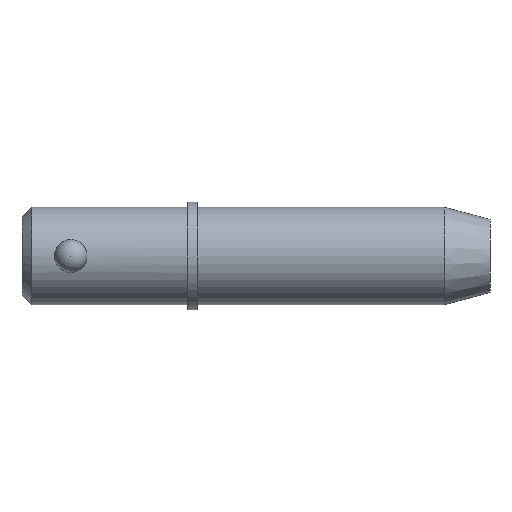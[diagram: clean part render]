
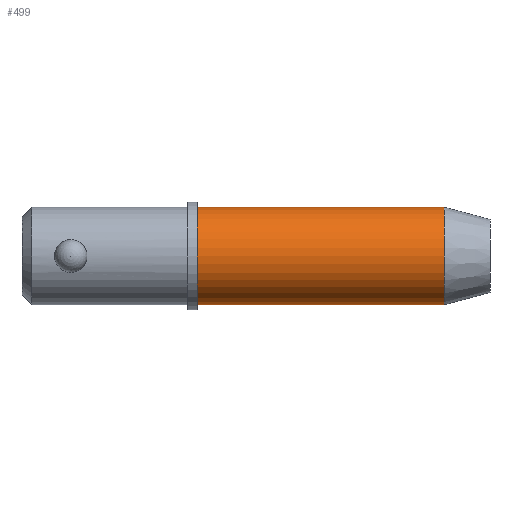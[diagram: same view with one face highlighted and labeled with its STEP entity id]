
A CAD part, front view. The second image highlights one B-rep face of the part: STEP entity #499.
In plain terms, the highlighted cylindrical face has radius 7.145 mm (diameter 14.29 mm), a partial arc.
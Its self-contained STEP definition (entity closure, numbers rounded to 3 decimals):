
#22 = CARTESIAN_POINT ( 'NONE',  ( 61.884, 0., 7.145 ) ) ;
#90 = DIRECTION ( 'NONE',  ( 0., 0., -1. ) ) ;
#112 = DIRECTION ( 'NONE',  ( 1., 0., 0. ) ) ;
#122 = CARTESIAN_POINT ( 'NONE',  ( 61.884, 0., -7.145 ) ) ;
#171 = DIRECTION ( 'NONE',  ( 0., 0., -1. ) ) ;
#221 = VECTOR ( 'NONE', #339, 1000. ) ;
#238 = AXIS2_PLACEMENT_3D ( 'NONE', #425, #254, #171 ) ;
#240 = AXIS2_PLACEMENT_3D ( 'NONE', #420, #112, #356 ) ;
#254 = DIRECTION ( 'NONE',  ( 1., 0., 0. ) ) ;
#277 = AXIS2_PLACEMENT_3D ( 'NONE', #787, #386, #90 ) ;
#305 = EDGE_CURVE ( 'NONE', #630, #833, #478, .T. ) ;
#322 = ORIENTED_EDGE ( 'NONE', *, *, #421, .T. ) ;
#339 = DIRECTION ( 'NONE',  ( 1., 0., 0. ) ) ;
#356 = DIRECTION ( 'NONE',  ( 0., 0., -1. ) ) ;
#386 = DIRECTION ( 'NONE',  ( 1., 0., 0. ) ) ;
#402 = ORIENTED_EDGE ( 'NONE', *, *, #988, .T. ) ;
#409 = CARTESIAN_POINT ( 'NONE',  ( 25.7, 0., -7.145 ) ) ;
#420 = CARTESIAN_POINT ( 'NONE',  ( 0., 0., 0. ) ) ;
#421 = EDGE_CURVE ( 'NONE', #709, #468, #684, .T. ) ;
#425 = CARTESIAN_POINT ( 'NONE',  ( 25.7, 0., 0. ) ) ;
#468 = VERTEX_POINT ( 'NONE', #409 ) ;
#478 = CIRCLE ( 'NONE', #277, 7.145 ) ;
#497 = LINE ( 'NONE', #667, #221 ) ;
#499 = ADVANCED_FACE ( 'NONE', ( #913 ), #1002, .T. ) ;
#520 = ORIENTED_EDGE ( 'NONE', *, *, #1019, .F. ) ;
#556 = EDGE_LOOP ( 'NONE', ( #520, #322, #402, #751 ) ) ;
#570 = LINE ( 'NONE', #812, #973 ) ;
#630 = VERTEX_POINT ( 'NONE', #22 ) ;
#667 = CARTESIAN_POINT ( 'NONE',  ( 0., 0., -7.145 ) ) ;
#684 = CIRCLE ( 'NONE', #238, 7.145 ) ;
#709 = VERTEX_POINT ( 'NONE', #903 ) ;
#738 = DIRECTION ( 'NONE',  ( 1., 0., 0. ) ) ;
#751 = ORIENTED_EDGE ( 'NONE', *, *, #305, .F. ) ;
#787 = CARTESIAN_POINT ( 'NONE',  ( 61.884, 0., 0. ) ) ;
#812 = CARTESIAN_POINT ( 'NONE',  ( 0., 0., 7.145 ) ) ;
#833 = VERTEX_POINT ( 'NONE', #122 ) ;
#903 = CARTESIAN_POINT ( 'NONE',  ( 25.7, 0., 7.145 ) ) ;
#913 = FACE_OUTER_BOUND ( 'NONE', #556, .T. ) ;
#973 = VECTOR ( 'NONE', #738, 1000. ) ;
#988 = EDGE_CURVE ( 'NONE', #468, #833, #497, .T. ) ;
#1002 = CYLINDRICAL_SURFACE ( 'NONE', #240, 7.145 ) ;
#1019 = EDGE_CURVE ( 'NONE', #709, #630, #570, .T. ) ;
